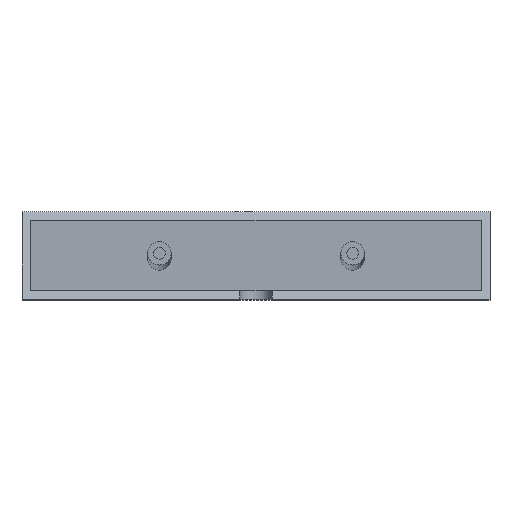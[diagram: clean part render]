
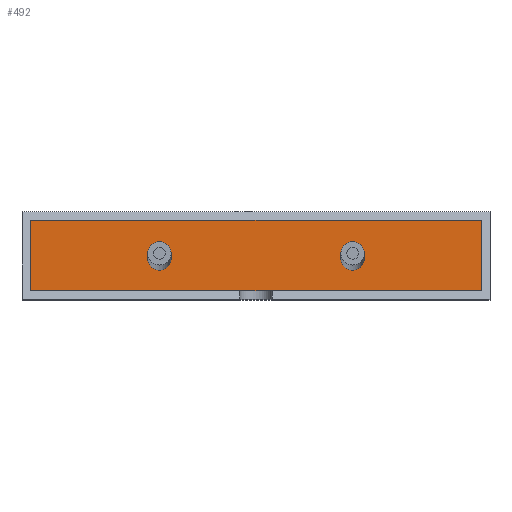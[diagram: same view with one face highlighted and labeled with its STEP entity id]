
A CAD part, top view. The second image highlights one B-rep face of the part: STEP entity #492.
In plain terms, the highlighted planar face has unit normal (0, 0, 1).
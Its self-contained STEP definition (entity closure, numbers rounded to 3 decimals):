
#16=LINE($,#723,#66);
#17=LINE($,#725,#67);
#18=LINE($,#727,#68);
#19=LINE($,#728,#69);
#66=VECTOR($,#596,77.);
#67=VECTOR($,#597,12.);
#68=VECTOR($,#598,77.);
#69=VECTOR($,#599,12.);
#117=PLANE($,#531);
#142=FACE_BOUND($,#185,.T.);
#143=FACE_BOUND($,#186,.T.);
#144=FACE_BOUND($,#187,.T.);
#185=EDGE_LOOP($,(#342));
#186=EDGE_LOOP($,(#343));
#187=EDGE_LOOP($,(#344,#345,#346,#347));
#209=CIRCLE($,#520,2.);
#213=CIRCLE($,#528,2.);
#221=VERTEX_POINT($,#696);
#225=VERTEX_POINT($,#708);
#230=VERTEX_POINT($,#721);
#231=VERTEX_POINT($,#722);
#232=VERTEX_POINT($,#724);
#233=VERTEX_POINT($,#726);
#265=EDGE_CURVE($,#221,#221,#209,.T.);
#269=EDGE_CURVE($,#225,#225,#213,.T.);
#274=EDGE_CURVE($,#230,#231,#16,.T.);
#275=EDGE_CURVE($,#232,#230,#17,.T.);
#276=EDGE_CURVE($,#233,#232,#18,.T.);
#277=EDGE_CURVE($,#231,#233,#19,.T.);
#342=ORIENTED_EDGE($,*,*,#265,.T.);
#343=ORIENTED_EDGE($,*,*,#269,.T.);
#344=ORIENTED_EDGE($,*,*,#274,.F.);
#345=ORIENTED_EDGE($,*,*,#275,.F.);
#346=ORIENTED_EDGE($,*,*,#276,.F.);
#347=ORIENTED_EDGE($,*,*,#277,.F.);
#492=ADVANCED_FACE($,(#142,#143,#144),#117,.T.);
#520=AXIS2_PLACEMENT_3D($,#697,#568,#569);
#528=AXIS2_PLACEMENT_3D($,#709,#584,#585);
#531=AXIS2_PLACEMENT_3D($,#720,#594,#595);
#568=DIRECTION('center_axis',(0.,0.,
-1.));
#569=DIRECTION('ref_axis',(-1.,0.,0.));
#584=DIRECTION('center_axis',(0.,0.,
-1.));
#585=DIRECTION('ref_axis',(-1.,0.,0.));
#594=DIRECTION('center_axis',(0.,0.,
1.));
#595=DIRECTION('ref_axis',(1.,0.,0.));
#596=DIRECTION($,(1.,0.,0.));
#597=DIRECTION($,(0.,1.,0.));
#598=DIRECTION($,(-1.,0.,0.));
#599=DIRECTION($,(0.,-1.,0.));
#696=CARTESIAN_POINT('',(-8.078,3.909,46.621));
#697=CARTESIAN_POINT('Origin',(-10.078,3.909,46.621));
#708=CARTESIAN_POINT('',(24.922,3.909,46.621));
#709=CARTESIAN_POINT('Origin',(22.922,3.909,46.621));
#720=CARTESIAN_POINT('Origin',(6.422,4.409,46.621));
#721=CARTESIAN_POINT('',(-32.078,10.409,46.621));
#722=CARTESIAN_POINT('',(44.922,10.409,46.621));
#723=CARTESIAN_POINT($,(26.422,10.409,46.621));
#724=CARTESIAN_POINT('',(-32.078,-1.591,46.621));
#725=CARTESIAN_POINT($,(-32.078,8.159,46.621));
#726=CARTESIAN_POINT('',(44.922,-1.591,46.621));
#727=CARTESIAN_POINT($,(-13.578,-1.591,46.621));
#728=CARTESIAN_POINT($,(44.922,0.659,46.621));
